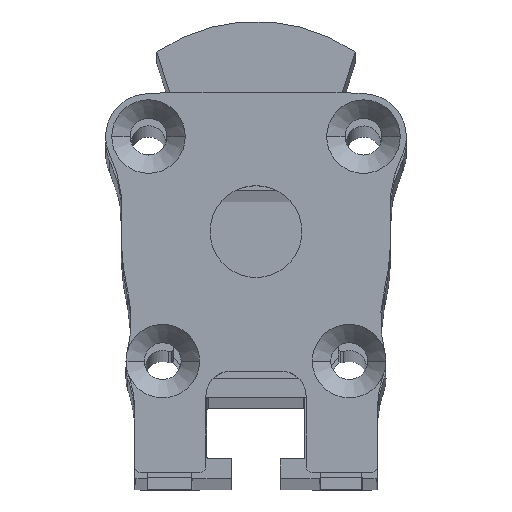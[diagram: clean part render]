
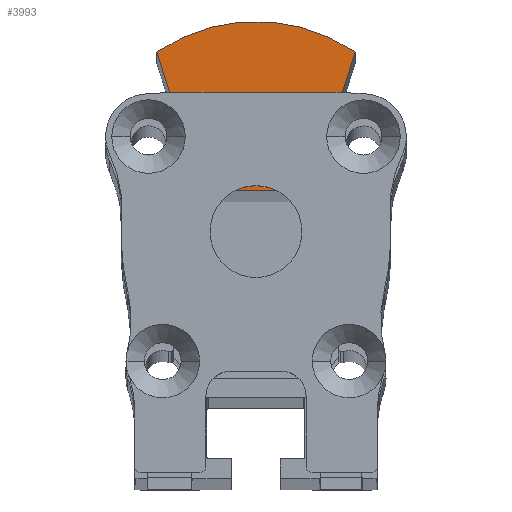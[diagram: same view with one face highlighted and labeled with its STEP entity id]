
A CAD part, top view. The second image highlights one B-rep face of the part: STEP entity #3993.
In plain terms, the highlighted planar face has unit normal (0, 0, 1).
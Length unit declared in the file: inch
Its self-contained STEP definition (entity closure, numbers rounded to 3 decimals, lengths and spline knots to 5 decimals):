
#3993=ADVANCED_FACE('',(#7809),#7810,.T.);
#4001=EDGE_CURVE('',#7813,#7819,#7822,.T.);
#4007=EDGE_CURVE('',#7827,#7819,#7830,.F.);
#4029=EDGE_CURVE('',#7861,#7862,#7863,.F.);
#4035=EDGE_CURVE('',#7869,#7870,#7871,.F.);
#4041=EDGE_CURVE('',#7870,#7861,#7877,.F.);
#4043=EDGE_CURVE('',#7869,#7879,#7880,.F.);
#4047=EDGE_CURVE('',#7813,#7862,#7884,.F.);
#4049=EDGE_CURVE('',#7886,#7887,#7888,.F.);
#4055=EDGE_CURVE('',#7827,#7894,#7895,.F.);
#4059=EDGE_CURVE('',#7894,#7886,#7899,.F.);
#4063=EDGE_CURVE('',#7901,#7887,#7904,.F.);
#4065=EDGE_CURVE('',#7879,#7901,#7906,.F.);
#7809=FACE_OUTER_BOUND('',#18401,.T.);
#7810=PLANE('',#18402);
#7813=VERTEX_POINT('',#18406);
#7819=VERTEX_POINT('',#18416);
#7822=LINE('',#18421,#18422);
#7827=VERTEX_POINT('',#18430);
#7830=LINE('',#18435,#18436);
#7861=VERTEX_POINT('',#18487);
#7862=VERTEX_POINT('',#18488);
#7863=LINE('',#18489,#18490);
#7869=VERTEX_POINT('',#18501);
#7870=VERTEX_POINT('',#18502);
#7871=LINE('',#18503,#18504);
#7877=LINE('',#18515,#18516);
#7879=VERTEX_POINT('',#18519);
#7880=LINE('',#18520,#18521);
#7884=LINE('',#18528,#18529);
#7886=VERTEX_POINT('',#18532);
#7887=VERTEX_POINT('',#18533);
#7888=LINE('',#18534,#18535);
#7894=VERTEX_POINT('',#18546);
#7895=LINE('',#18547,#18548);
#7899=LINE('',#18555,#18556);
#7901=VERTEX_POINT('',#18559);
#7904=LINE('',#18564,#18565);
#7906=CIRCLE('',#18568,0.56299);
#18401=EDGE_LOOP('',(#24110,#24111,#24112,#24113,#24114,#24115,#24116,#24117,#24118,#24119,#24120,#24121));
#18402=AXIS2_PLACEMENT_3D('',#24122,#24123,#24124);
#18406=CARTESIAN_POINT('',(-0.17932,0.15296,9.25083));
#18416=CARTESIAN_POINT('',(0.17932,0.15296,9.25083));
#18421=CARTESIAN_POINT('',(0.,0.15296,9.25083));
#18422=VECTOR('',#24128,1.0);
#18430=CARTESIAN_POINT('',(0.26301,0.4208,9.25083));
#18435=CARTESIAN_POINT('',(0.19145,0.19179,9.25083));
#18436=VECTOR('',#24131,1.0);
#18487=CARTESIAN_POINT('',(-0.21005,0.4208,9.25083));
#18488=CARTESIAN_POINT('',(-0.26301,0.4208,9.25083));
#18489=CARTESIAN_POINT('',(-0.12298,0.4208,9.25083));
#18490=VECTOR('',#24144,1.0);
#18501=CARTESIAN_POINT('',(-0.27532,0.46017,9.25083));
#18502=CARTESIAN_POINT('',(-0.21005,0.46017,9.25083));
#18503=CARTESIAN_POINT('',(-0.12298,0.46017,9.25083));
#18504=VECTOR('',#24147,1.0);
#18515=CARTESIAN_POINT('',(-0.21005,0.35333,9.25083));
#18516=VECTOR('',#24150,1.0);
#18519=CARTESIAN_POINT('',(-0.31832,0.59777,9.25083));
#18520=CARTESIAN_POINT('',(-0.19145,0.19179,9.25083));
#18521=VECTOR('',#24151,1.0);
#18528=CARTESIAN_POINT('',(-0.19145,0.19179,9.25083));
#18529=VECTOR('',#24153,1.0);
#18532=CARTESIAN_POINT('',(0.20856,0.46017,9.25083));
#18533=CARTESIAN_POINT('',(0.27532,0.46017,9.25083));
#18534=CARTESIAN_POINT('',(0.12223,0.46017,9.25083));
#18535=VECTOR('',#24154,1.0);
#18546=CARTESIAN_POINT('',(0.20856,0.4208,9.25083));
#18547=CARTESIAN_POINT('',(0.12223,0.4208,9.25083));
#18548=VECTOR('',#24157,1.0);
#18555=CARTESIAN_POINT('',(0.20856,0.35333,9.25083));
#18556=VECTOR('',#24159,1.0);
#18559=CARTESIAN_POINT('',(0.31832,0.59777,9.25083));
#18564=CARTESIAN_POINT('',(0.19145,0.19179,9.25083));
#18565=VECTOR('',#24161,1.0);
#18568=AXIS2_PLACEMENT_3D('',#24162,#24163,#24164);
#24110=ORIENTED_EDGE('',*,*,#4001,.T.);
#24111=ORIENTED_EDGE('',*,*,#4007,.F.);
#24112=ORIENTED_EDGE('',*,*,#4055,.T.);
#24113=ORIENTED_EDGE('',*,*,#4059,.T.);
#24114=ORIENTED_EDGE('',*,*,#4049,.T.);
#24115=ORIENTED_EDGE('',*,*,#4063,.F.);
#24116=ORIENTED_EDGE('',*,*,#4065,.F.);
#24117=ORIENTED_EDGE('',*,*,#4043,.F.);
#24118=ORIENTED_EDGE('',*,*,#4035,.T.);
#24119=ORIENTED_EDGE('',*,*,#4041,.T.);
#24120=ORIENTED_EDGE('',*,*,#4029,.T.);
#24121=ORIENTED_EDGE('',*,*,#4047,.F.);
#24122=CARTESIAN_POINT('',(0.,0.26619,9.25083));
#24123=DIRECTION('',(0.,0.,1.0));
#24124=DIRECTION('',(1.0,0.0,0.));
#24128=DIRECTION('',(1.0,0.0,0.));
#24131=DIRECTION('',(0.298,0.954,0.));
#24144=DIRECTION('',(1.0,0.0,0.));
#24147=DIRECTION('',(-1.0,0.0,0.));
#24150=DIRECTION('',(-0.0,1.0,0.));
#24151=DIRECTION('',(0.298,-0.954,0.));
#24153=DIRECTION('',(0.298,-0.954,0.));
#24154=DIRECTION('',(-1.0,0.0,0.));
#24157=DIRECTION('',(1.0,0.0,0.));
#24159=DIRECTION('',(-0.0,-1.0,0.));
#24161=DIRECTION('',(0.298,0.954,0.));
#24162=CARTESIAN_POINT('',(0.,0.13341,9.25083));
#24163=DIRECTION('',(0.,0.,1.0));
#24164=DIRECTION('',(1.0,0.,0.));
